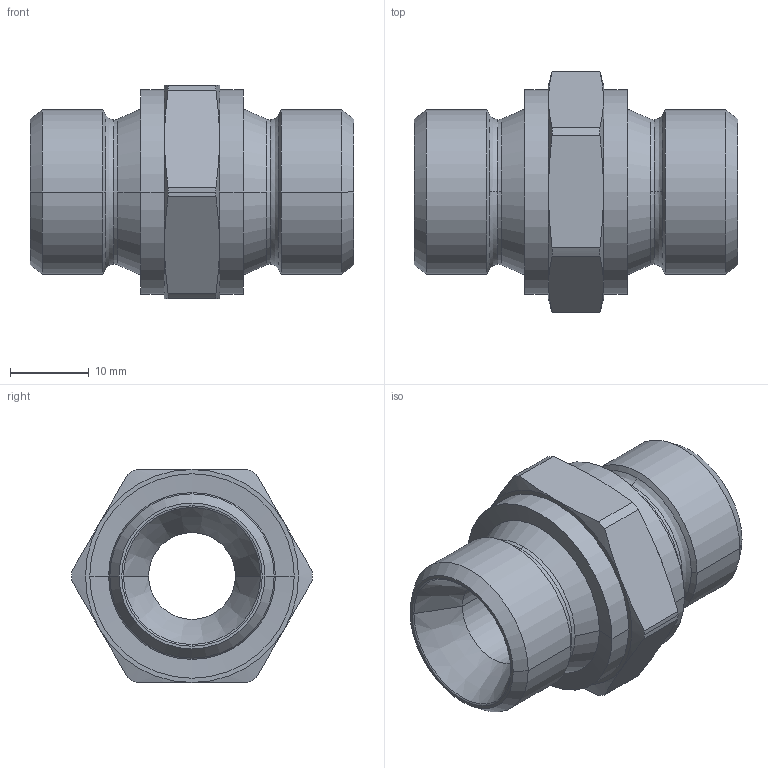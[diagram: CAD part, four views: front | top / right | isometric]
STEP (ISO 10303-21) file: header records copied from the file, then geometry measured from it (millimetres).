
FILE_DESCRIPTION((''),'2;1');
FILE_NAME('300511.stp','2006-09-11T08:10:49',(''),(''),'AutoCAD STEP 2000i','AutoCAD 2000i',', , ');
FILE_SCHEMA(('CONFIG_CONTROL_DESIGN'));
Length unit declared in the file: millimetre
Products named in the file (2): 300511.0; CHIAVE SMUSSATA#0
Assembly tree (1 placements, depth 2):
  300511.0
    CHIAVE SMUSSATA#0
Bounding box: 41 x 30.5 x 27 mm (x, y, z)
Volume: 11873 mm3; surface area: 5278 mm2
Topology: 1 solids, 1 shells, 72 faces, 170 edges, 102 vertices
Faces by surface type: cone 32, cylinder 18, plane 10, bspline 8, torus 4
Entity records: 2493 total; most frequent: CARTESIAN_POINT 746, DIRECTION 380, ORIENTED_EDGE 340, EDGE_CURVE 170, AXIS2_PLACEMENT_3D 168, VERTEX_POINT 102, CIRCLE 102, EDGE_LOOP 76
